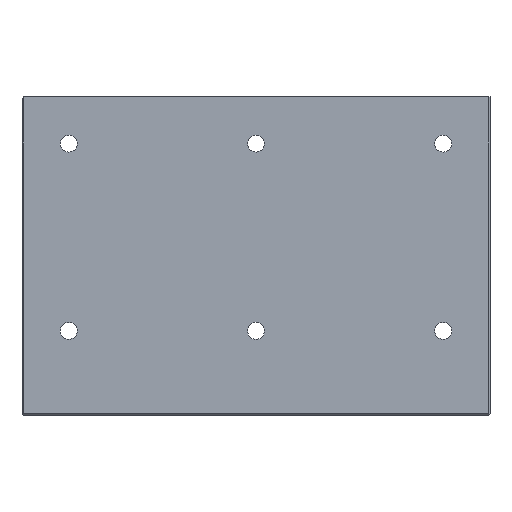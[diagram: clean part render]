
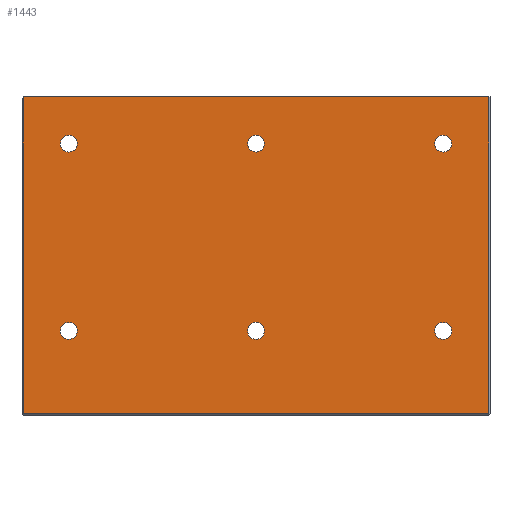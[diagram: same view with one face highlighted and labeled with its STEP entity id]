
A CAD part, front view. The second image highlights one B-rep face of the part: STEP entity #1443.
In plain terms, the highlighted planar face has unit normal (0, -1, 0).
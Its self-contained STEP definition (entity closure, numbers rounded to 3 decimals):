
#177=DIRECTION('',(0.,0.,-1.));
#178=VECTOR('',#177,338.5);
#179=CARTESIAN_POINT('',(248.5,0.,340.));
#180=LINE('',#179,#178);
#181=DIRECTION('',(-1.,0.,0.));
#182=VECTOR('',#181,497.);
#183=CARTESIAN_POINT('',(248.5,0.,1.5));
#184=LINE('',#183,#182);
#185=DIRECTION('',(0.,0.,1.));
#186=VECTOR('',#185,338.5);
#187=CARTESIAN_POINT('',(-248.5,0.,1.5));
#188=LINE('',#187,#186);
#189=DIRECTION('',(1.,0.,0.));
#190=VECTOR('',#189,497.);
#191=CARTESIAN_POINT('',(-248.5,0.,340.));
#192=LINE('',#191,#190);
#193=CARTESIAN_POINT('',(200.,0.,90.));
#194=DIRECTION('',(0.,1.,0.));
#195=DIRECTION('',(1.,0.,0.));
#196=AXIS2_PLACEMENT_3D('',#193,#194,#195);
#198=CARTESIAN_POINT('',(200.,0.,90.));
#199=DIRECTION('',(0.,1.,0.));
#200=DIRECTION('',(-1.,0.,0.));
#201=AXIS2_PLACEMENT_3D('',#198,#199,#200);
#203=CARTESIAN_POINT('',(200.,0.,290.));
#204=DIRECTION('',(0.,1.,0.));
#205=DIRECTION('',(1.,0.,0.));
#206=AXIS2_PLACEMENT_3D('',#203,#204,#205);
#208=CARTESIAN_POINT('',(200.,0.,290.));
#209=DIRECTION('',(0.,1.,0.));
#210=DIRECTION('',(-1.,0.,0.));
#211=AXIS2_PLACEMENT_3D('',#208,#209,#210);
#213=CARTESIAN_POINT('',(0.,0.,90.));
#214=DIRECTION('',(0.,1.,0.));
#215=DIRECTION('',(1.,0.,0.));
#216=AXIS2_PLACEMENT_3D('',#213,#214,#215);
#218=CARTESIAN_POINT('',(0.,0.,90.));
#219=DIRECTION('',(0.,1.,0.));
#220=DIRECTION('',(-1.,0.,0.));
#221=AXIS2_PLACEMENT_3D('',#218,#219,#220);
#223=CARTESIAN_POINT('',(0.,0.,290.));
#224=DIRECTION('',(0.,1.,0.));
#225=DIRECTION('',(1.,0.,0.));
#226=AXIS2_PLACEMENT_3D('',#223,#224,#225);
#228=CARTESIAN_POINT('',(0.,0.,290.));
#229=DIRECTION('',(0.,1.,0.));
#230=DIRECTION('',(-1.,0.,0.));
#231=AXIS2_PLACEMENT_3D('',#228,#229,#230);
#233=CARTESIAN_POINT('',(-200.,0.,90.));
#234=DIRECTION('',(0.,1.,0.));
#235=DIRECTION('',(1.,0.,0.));
#236=AXIS2_PLACEMENT_3D('',#233,#234,#235);
#238=CARTESIAN_POINT('',(-200.,0.,90.));
#239=DIRECTION('',(0.,1.,0.));
#240=DIRECTION('',(-1.,0.,0.));
#241=AXIS2_PLACEMENT_3D('',#238,#239,#240);
#243=CARTESIAN_POINT('',(-200.,0.,290.));
#244=DIRECTION('',(0.,1.,0.));
#245=DIRECTION('',(1.,0.,0.));
#246=AXIS2_PLACEMENT_3D('',#243,#244,#245);
#248=CARTESIAN_POINT('',(-200.,0.,290.));
#249=DIRECTION('',(0.,1.,0.));
#250=DIRECTION('',(-1.,0.,0.));
#251=AXIS2_PLACEMENT_3D('',#248,#249,#250);
#909=CARTESIAN_POINT('',(248.5,0.,340.));
#911=VERTEX_POINT('',#909);
#915=CARTESIAN_POINT('',(248.5,0.,1.5));
#916=VERTEX_POINT('',#915);
#921=CARTESIAN_POINT('',(-248.5,0.,1.5));
#922=VERTEX_POINT('',#921);
#935=CARTESIAN_POINT('',(-248.5,0.,340.));
#936=VERTEX_POINT('',#935);
#1009=CARTESIAN_POINT('',(209.,0.,90.));
#1010=CARTESIAN_POINT('',(191.,0.,90.));
#1011=VERTEX_POINT('',#1009);
#1012=VERTEX_POINT('',#1010);
#1025=CARTESIAN_POINT('',(209.,0.,290.));
#1026=CARTESIAN_POINT('',(191.,0.,290.));
#1027=VERTEX_POINT('',#1025);
#1028=VERTEX_POINT('',#1026);
#1041=CARTESIAN_POINT('',(9.,0.,90.));
#1042=VERTEX_POINT('',#1041);
#1043=CARTESIAN_POINT('',(-9.,0.,90.));
#1044=VERTEX_POINT('',#1043);
#1057=CARTESIAN_POINT('',(9.,0.,290.));
#1058=VERTEX_POINT('',#1057);
#1059=CARTESIAN_POINT('',(-9.,0.,290.));
#1060=VERTEX_POINT('',#1059);
#1073=CARTESIAN_POINT('',(-191.,0.,90.));
#1074=VERTEX_POINT('',#1073);
#1075=CARTESIAN_POINT('',(-209.,0.,90.));
#1076=VERTEX_POINT('',#1075);
#1089=CARTESIAN_POINT('',(-191.,0.,290.));
#1090=VERTEX_POINT('',#1089);
#1091=CARTESIAN_POINT('',(-209.,0.,290.));
#1092=VERTEX_POINT('',#1091);
#1396=CARTESIAN_POINT('',(-250.,0.,340.));
#1397=DIRECTION('',(0.,-1.,0.));
#1398=DIRECTION('',(0.,0.,-1.));
#1399=AXIS2_PLACEMENT_3D('',#1396,#1397,#1398);
#1400=PLANE('',#1399);
#1401=ORIENTED_EDGE('',*,*,#1391,.T.);
#1402=ORIENTED_EDGE('',*,*,#1156,.T.);
#1403=ORIENTED_EDGE('',*,*,#1173,.T.);
#1404=ORIENTED_EDGE('',*,*,#1358,.T.);
#1405=EDGE_LOOP('',(#1401,#1402,#1403,#1404));
#1406=FACE_OUTER_BOUND('',#1405,.F.);
#1408=ORIENTED_EDGE('',*,*,#1407,.F.);
#1410=ORIENTED_EDGE('',*,*,#1409,.F.);
#1411=EDGE_LOOP('',(#1408,#1410));
#1412=FACE_BOUND('',#1411,.F.);
#1414=ORIENTED_EDGE('',*,*,#1413,.F.);
#1416=ORIENTED_EDGE('',*,*,#1415,.F.);
#1417=EDGE_LOOP('',(#1414,#1416));
#1418=FACE_BOUND('',#1417,.F.);
#1420=ORIENTED_EDGE('',*,*,#1419,.F.);
#1422=ORIENTED_EDGE('',*,*,#1421,.F.);
#1423=EDGE_LOOP('',(#1420,#1422));
#1424=FACE_BOUND('',#1423,.F.);
#1426=ORIENTED_EDGE('',*,*,#1425,.F.);
#1428=ORIENTED_EDGE('',*,*,#1427,.F.);
#1429=EDGE_LOOP('',(#1426,#1428));
#1430=FACE_BOUND('',#1429,.F.);
#1432=ORIENTED_EDGE('',*,*,#1431,.F.);
#1434=ORIENTED_EDGE('',*,*,#1433,.F.);
#1435=EDGE_LOOP('',(#1432,#1434));
#1436=FACE_BOUND('',#1435,.F.);
#1438=ORIENTED_EDGE('',*,*,#1437,.F.);
#1440=ORIENTED_EDGE('',*,*,#1439,.F.);
#1441=EDGE_LOOP('',(#1438,#1440));
#1442=FACE_BOUND('',#1441,.F.);
#1443=ADVANCED_FACE('',(#1406,#1412,#1418,#1424,#1430,#1436,#1442),#1400,.T.);
#197=CIRCLE('',#196,9.);
#202=CIRCLE('',#201,9.);
#207=CIRCLE('',#206,9.);
#212=CIRCLE('',#211,9.);
#217=CIRCLE('',#216,9.);
#222=CIRCLE('',#221,9.);
#227=CIRCLE('',#226,9.);
#232=CIRCLE('',#231,9.);
#237=CIRCLE('',#236,9.);
#242=CIRCLE('',#241,9.);
#247=CIRCLE('',#246,9.);
#252=CIRCLE('',#251,9.);
#1156=EDGE_CURVE('',#916,#922,#184,.T.);
#1173=EDGE_CURVE('',#922,#936,#188,.T.);
#1358=EDGE_CURVE('',#936,#911,#192,.T.);
#1391=EDGE_CURVE('',#911,#916,#180,.T.);
#1407=EDGE_CURVE('',#1011,#1012,#197,.T.);
#1409=EDGE_CURVE('',#1012,#1011,#202,.T.);
#1413=EDGE_CURVE('',#1027,#1028,#207,.T.);
#1415=EDGE_CURVE('',#1028,#1027,#212,.T.);
#1419=EDGE_CURVE('',#1042,#1044,#217,.T.);
#1421=EDGE_CURVE('',#1044,#1042,#222,.T.);
#1425=EDGE_CURVE('',#1058,#1060,#227,.T.);
#1427=EDGE_CURVE('',#1060,#1058,#232,.T.);
#1431=EDGE_CURVE('',#1074,#1076,#237,.T.);
#1433=EDGE_CURVE('',#1076,#1074,#242,.T.);
#1437=EDGE_CURVE('',#1090,#1092,#247,.T.);
#1439=EDGE_CURVE('',#1092,#1090,#252,.T.);
